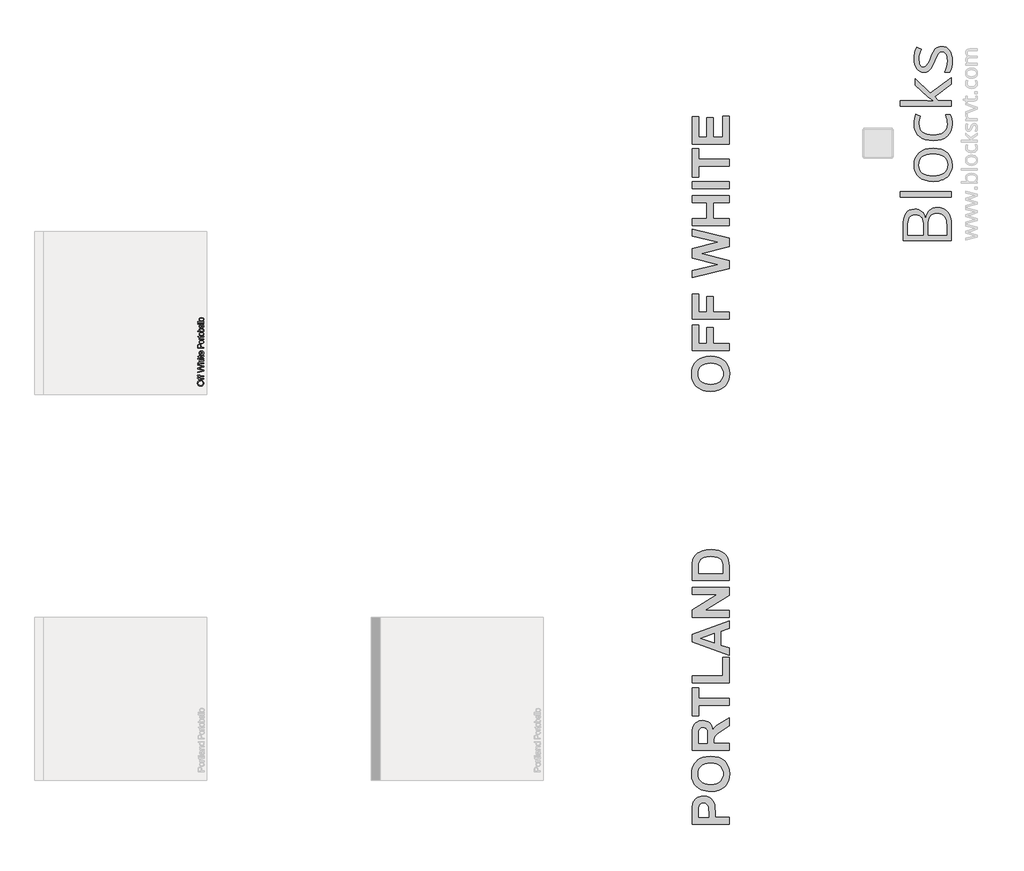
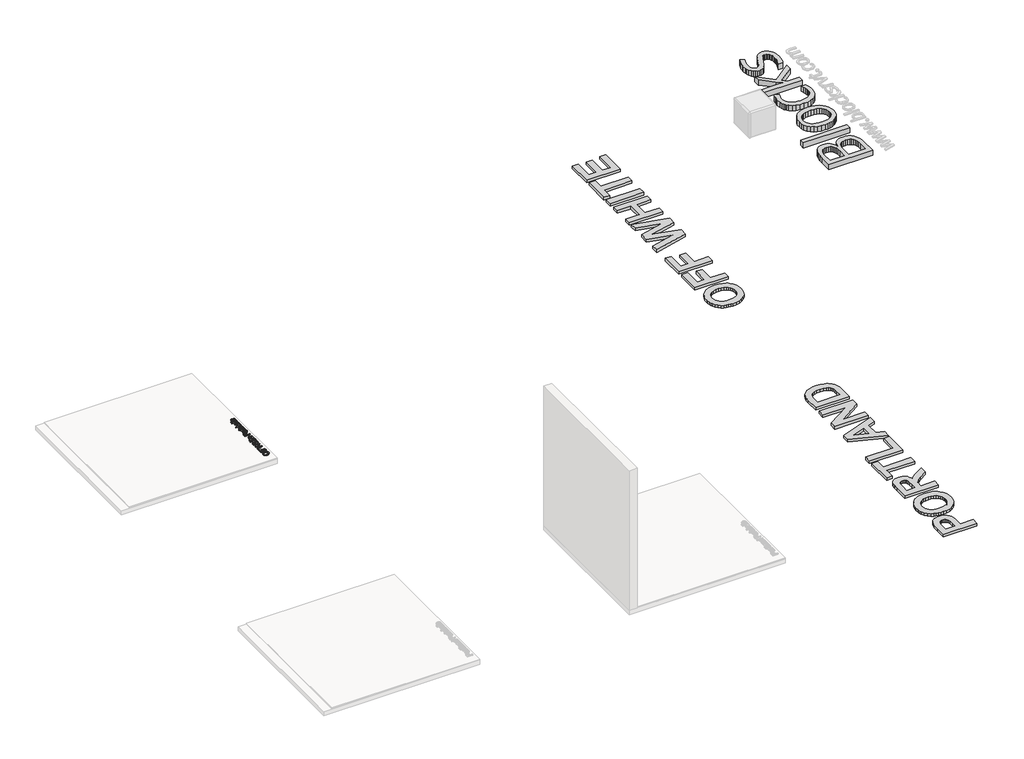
# One storey, part 13 of 14: 5 proxies.
"""IFC4 building model written with IfcOpenShell, lengths in millimetres."""

from ifc_helpers import new_model, si_unit, frame, origin, origin_with_axes, place, context, project, spatial, polyline, outline, extrude, element, save

model = new_model("IFC4")

# Units and contexts
model_context = context("Model", 3, world=origin())
ifc_project = project(units=[si_unit("LENGTHUNIT", "METRE", prefix="MILLI")], contexts=[model_context])

# Site, building, storey
site = spatial("IfcSite", under=ifc_project)
building = spatial("IfcBuilding", under=site)
storey = spatial("IfcBuildingStorey", under=building, Name="PORTOBELLO - SHOWROOM", Elevation=0.0)

# Proxies
placement = place(None, origin())
element("IfcBuildingElementProxy", 1, Name="10mm Arial", ObjectType="10mm Arial", at=placement, inside=storey, context=model_context, shape_type="SweptSolid", body=[
    extrude(outline(polyline([(192292.7960193, 16513.6004485), (192270.5820781, 16516.9481746), (192253.7760023, 16526.9913531), (192243.1993949, 16542.3259009), (192239.6738592, 16561.5477352), (192241.3293281, 16574.724042), (192246.2957351, 16586.5391854), (192254.2235921, 16596.3493719), (192264.7634112, 16603.5108081), (192277.4062891, 16607.8886038), (192291.6433223, 16609.3478691), (192306.0704279, 16607.8119617), (192318.8911155, 16603.2042398), (192329.4493287, 16595.7791548), (192337.0890115, 16585.7911586), (192341.7243246, 16574.0771828), (192343.269429, 16561.4741588), (192341.5618434, 16548.0955169), (192336.4390866, 16536.2129284), (192328.3640768, 16526.4272674), (192317.7997322, 16519.3394076), (192292.7960193, 16513.6004485)]), holes=[polyline([(192292.9186466, 16526.1574872), (192308.6333392, 16528.6682818), (192320.6078981, 16536.2006657), (192328.1862672, 16547.5222341), (192330.7123902, 16561.4005824), (192328.1617417, 16575.4812657), (192320.5097962, 16586.8212282), (192308.1673553, 16594.2984298), (192291.5452205, 16596.7908303), (192270.8212014, 16592.5233992), (192257.099203, 16580.0521995), (192252.2308979, 16561.6213116), (192254.5761456, 16548.113911), (192261.6118888, 16536.6298614), (192274.1290737, 16528.7755808), (192292.9186466, 16526.1574872)])]), frame((0.0, 0.0, 17.0), z_axis=(0.0, 0.0, 1.0), x_axis=(1.0, 0.0, 0.0)), (0.0, 0.0, 1.0), 20.0),
    extrude(outline(polyline([(192341.6997992, 16668.9938032), (192280.4842352, 16668.9938032), (192280.4842352, 16658.0063943), (192267.9271964, 16658.0063943), (192267.9271964, 16668.9938032), (192260.4959801, 16668.9938032), (192250.023606, 16670.3181784), (192242.5433387, 16676.7438506), (192239.6738592, 16689.3989912), (192241.0472853, 16700.852384), (192252.8195091, 16699.012974), (192252.2308979, 16691.7779615), (192254.3155626, 16683.8684986), (192262.0901354, 16681.550842), (192267.9271964, 16681.550842), (192267.9271964, 16695.6775106), (192280.4842352, 16695.6775106), (192280.4842352, 16681.550842), (192341.6997992, 16681.550842), (192341.6997992, 16668.9938032)])), frame((0.0, 0.0, 17.0), z_axis=(0.0, 0.0, 1.0), x_axis=(1.0, 0.0, 0.0)), (0.0, 0.0, 1.0), 20.0),
    extrude(outline(polyline([(192341.6997992, 16628.1834272), (192280.4842352, 16628.1834272), (192280.4842352, 16617.1960183), (192267.9271964, 16617.1960183), (192267.9271964, 16628.1834272), (192260.4959801, 16628.1834272), (192250.023606, 16629.5078024), (192242.5433387, 16635.9334746), (192239.6738592, 16648.5886152), (192241.0472853, 16660.042008), (192252.8195091, 16658.202598), (192252.2308979, 16650.9675855), (192254.3155626, 16643.0581226), (192262.0901354, 16640.740466), (192267.9271964, 16640.740466), (192267.9271964, 16654.8671346), (192280.4842352, 16654.8671346), (192280.4842352, 16640.740466), (192341.6997992, 16640.740466), (192341.6997992, 16628.1834272)])), frame((0.0, 0.0, 17.0), z_axis=(0.0, 0.0, 1.0), x_axis=(1.0, 0.0, 0.0)), (0.0, 0.0, 1.0), 20.0),
    extrude(outline(polyline([(192341.6997992, 16765.4524624), (192241.243489, 16738.0575165), (192241.243489, 16751.0069627), (192307.2660444, 16766.8994649), (192327.6467069, 16771.8045581), (192309.6204892, 16777.0530079), (192241.243489, 16796.9676866), (192241.243489, 16815.6315665), (192290.8094565, 16830.1015916), (192327.6467069, 16840.8682714), (192307.8546556, 16845.6262118), (192241.243489, 16861.6658668), (192241.243489, 16874.6153131), (192341.6997992, 16847.1958417), (192341.6997992, 16833.7804116), (192264.1993255, 16809.6964036), (192253.3835948, 16806.3364148), (192266.4066175, 16802.5594929), (192341.6997992, 16780.6092006), (192341.6997992, 16765.4524624)])), frame((0.0, 0.0, 17.0), z_axis=(0.0, 0.0, 1.0), x_axis=(1.0, 0.0, 0.0)), (0.0, 0.0, 1.0), 20.0),
    extrude(outline(polyline([(192341.6997992, 16885.602722), (192241.243489, 16885.602722), (192241.243489, 16898.1597608), (192278.1788413, 16898.1597608), (192269.3128852, 16907.9515532), (192266.3575665, 16920.0119513), (192269.5826654, 16934.1140944), (192278.4976724, 16942.6734822), (192295.0033112, 16945.2486561), (192341.6997992, 16945.2486561), (192341.6997992, 16932.6916174), (192296.3031609, 16932.6916174), (192283.0594091, 16928.6939664), (192278.9146053, 16917.3632009), (192281.7105085, 16907.0747678), (192289.2888776, 16900.2076372), (192302.5081039, 16898.1597608), (192341.6997992, 16898.1597608), (192341.6997992, 16885.602722)])), frame((0.0, 0.0, 17.0), z_axis=(0.0, 0.0, 1.0), x_axis=(1.0, 0.0, 0.0)), (0.0, 0.0, 1.0), 20.0),
    extrude(outline(polyline([(192253.8005278, 16962.5145844), (192241.243489, 16962.5145844), (192241.243489, 16975.0716232), (192253.8005278, 16975.0716232), (192253.8005278, 16962.5145844)])), frame((0.0, 0.0, 17.0), z_axis=(0.0, 0.0, 1.0), x_axis=(1.0, 0.0, 0.0)), (0.0, 0.0, 1.0), 20.0),
    extrude(outline(polyline([(192341.6997992, 16962.5145844), (192267.9271964, 16962.5145844), (192267.9271964, 16975.0716232), (192341.6997992, 16975.0716232), (192341.6997992, 16962.5145844)])), frame((0.0, 0.0, 17.0), z_axis=(0.0, 0.0, 1.0), x_axis=(1.0, 0.0, 0.0)), (0.0, 0.0, 1.0), 20.0),
    extrude(outline(polyline([(192331.227425, 17020.5908887), (192342.0676811, 17022.1605186), (192343.269429, 17012.767265), (192341.1847644, 17002.2458399), (192335.7155854, 16996.9973901), (192321.4662894, 16995.4768112), (192280.4842352, 16995.4768112), (192280.4842352, 16986.0590321), (192267.9271964, 16986.0590321), (192267.9271964, 16995.4768112), (192249.9990805, 16995.4768112), (192242.6169151, 17008.03385), (192267.9271964, 17008.03385), (192267.9271964, 17020.5908887), (192280.4842352, 17020.5908887), (192280.4842352, 17008.03385), (192321.0984074, 17008.03385), (192327.5731305, 17008.6960376), (192329.8662616, 17010.8420159), (192330.7123902, 17015.1217098), (192331.227425, 17020.5908887)])), frame((0.0, 0.0, 17.0), z_axis=(0.0, 0.0, 1.0), x_axis=(1.0, 0.0, 0.0)), (0.0, 0.0, 1.0), 20.0),
    extrude(outline(polyline([(192319.7249813, 17084.7985596), (192321.2946112, 17097.1103437), (192330.5713688, 17092.6743), (192337.5059444, 17085.5956373), (192341.8285579, 17076.0337711), (192343.269429, 17064.148117), (192340.7831598, 17049.4144431), (192333.3243524, 17038.0775463), (192321.3773846, 17030.848665), (192305.4266344, 17028.439038), (192288.9393897, 17030.8731905), (192276.6092115, 17038.1756481), (192268.9204778, 17049.3592608), (192266.3575665, 17063.4368785), (192268.9143464, 17077.0761034), (192276.584686, 17087.9746075), (192288.8903387, 17095.1207153), (192305.353058, 17097.5027512), (192308.7375724, 17097.4291748), (192308.7375724, 17040.9960767), (192318.1369574, 17043.1696462), (192325.0470075, 17048.2188266), (192329.2960445, 17055.5059558), (192330.7123902, 17064.3933716), (192328.0881653, 17076.7051557), (192319.7249813, 17084.7985596)]), holes=[polyline([(192296.1805336, 17040.9960767), (192296.1805336, 17084.9457124), (192284.8007172, 17079.9179918), (192280.3861333, 17072.5971401), (192278.9146053, 17063.3878275), (192283.6112321, 17047.924521), (192289.1018709, 17043.0592816), (192296.1805336, 17040.9960767)])]), frame((0.0, 0.0, 17.0), z_axis=(0.0, 0.0, 1.0), x_axis=(1.0, 0.0, 0.0)), (0.0, 0.0, 1.0), 20.0),
])
element("IfcBuildingElementProxy", 2, Name="10mm Arial Narrow", ObjectType="10mm Arial Narrow", at=placement, inside=storey, context=model_context, shape_type="SweptSolid", body=[
    extrude(outline(polyline([(192341.6997992, 17145.6232376), (192240.9811954, 17145.6232376), (192240.9811954, 17176.9201223), (192242.8595161, 17193.2158238), (192252.3399593, 17204.6888099), (192269.3590681, 17208.9784884), (192281.4348937, 17207.19218), (192291.0612874, 17201.8332548), (192297.3625459, 17192.089466), (192299.4629653, 17177.1485667), (192299.4629653, 17155.3701993), (192341.6997992, 17155.3701993), (192341.6997992, 17145.6232376)]), holes=[polyline([(192288.0915101, 17155.3701993), (192288.0915101, 17178.3415542), (192283.5606959, 17194.2057496), (192269.8921051, 17199.2315267), (192259.7263287, 17196.7567122), (192253.9263788, 17190.7790834), (192252.3526507, 17178.1131098), (192252.3526507, 17155.3701993), (192288.0915101, 17155.3701993)])]), frame((0.0, 0.0, 17.0), z_axis=(0.0, 0.0, 1.0), x_axis=(1.0, 0.0, 0.0)), (0.0, 0.0, 1.0), 20.0),
    extrude(outline(polyline([(192305.148693, 17217.1009564), (192288.5579174, 17219.0554253), (192276.6058326, 17224.9188319), (192269.381278, 17233.7773986), (192266.9730931, 17244.7173478), (192269.381278, 17255.5303834), (192276.6058326, 17264.4143328), (192288.3675471, 17270.3538875), (192304.3872116, 17272.3337391), (192321.5490982, 17270.3887888), (192333.6915533, 17264.5539377), (192340.9161079, 17255.7048895), (192343.3242928, 17244.7173478), (192340.9097622, 17233.8567196), (192333.6661706, 17224.9822887), (192321.7077401, 17219.0712895), (192305.148693, 17217.1009564)]), holes=[polyline([(192305.1233102, 17226.8479181), (192317.6750616, 17228.1519549), (192326.5463197, 17232.0640655), (192331.8195783, 17237.9052623), (192333.5773311, 17244.9965576), (192331.8037141, 17251.7166308), (192326.4828629, 17257.4087041), (192317.5957407, 17261.2922591), (192305.1233102, 17262.5867775), (192292.6096329, 17261.2827406), (192283.7510662, 17257.37063), (192278.4778076, 17251.5294333), (192276.7200548, 17244.4381379), (192278.4873262, 17237.6704722), (192283.7891403, 17231.9879174), (192292.6572255, 17228.1329179), (192305.1233102, 17226.8479181)])]), frame((0.0, 0.0, 17.0), z_axis=(0.0, 0.0, 1.0), x_axis=(1.0, 0.0, 0.0)), (0.0, 0.0, 1.0), 20.0),
    extrude(outline(polyline([(192333.5773311, 17343.8114579), (192343.3242928, 17345.4359515), (192343.3242928, 17338.0749649), (192341.2048363, 17329.8002005), (192335.4048864, 17325.4851394), (192320.7590612, 17324.3175346), (192278.3445484, 17324.3175346), (192278.3445484, 17316.1950666), (192275.0955612, 17316.1950666), (192279.969042, 17314.570573), (192278.3445484, 17307.0065246), (192280.6670666, 17300.9273649), (192287.1523497, 17297.0565012), (192302.5596563, 17295.0766496), (192341.6997992, 17295.0766496), (192341.6997992, 17285.329688), (192268.5975868, 17285.329688), (192268.5975868, 17295.0766496), (192278.293783, 17295.0766496), (192269.2067719, 17301.320797), (192266.9730931, 17307.7172405), (192268.5975868, 17316.1950666), (192268.5975868, 17324.3175346), (192252.3526507, 17324.3175346), (192244.2301826, 17334.0644963), (192268.5975868, 17334.0644963), (192268.5975868, 17343.8114579), (192278.3445484, 17343.8114579), (192278.3445484, 17334.0644963), (192322.9927399, 17334.0644963), (192330.9882944, 17334.9275085), (192333.5773311, 17339.5471622), (192333.5773311, 17343.8114579)])), frame((0.0, 0.0, 17.0), z_axis=(0.0, 0.0, 1.0), x_axis=(1.0, 0.0, 0.0)), (0.0, 0.0, 1.0), 20.0),
    extrude(outline(polyline([(192305.148693, 17350.3094324), (192288.5579174, 17352.2639012), (192276.6058326, 17358.1273078), (192269.381278, 17366.9858746), (192266.9730931, 17377.9258237), (192269.381278, 17388.7388593), (192276.6058326, 17397.6228087), (192288.3675471, 17403.5623635), (192304.3872116, 17405.5422151), (192321.5490982, 17403.5972647), (192333.6915533, 17397.7624136), (192340.9161079, 17388.9133654), (192343.3242928, 17377.9258237), (192340.9097622, 17367.0651955), (192333.6661706, 17358.1907646), (192321.7077401, 17352.2797654), (192305.148693, 17350.3094324)]), holes=[polyline([(192305.1233102, 17360.056394), (192317.6750616, 17361.3604309), (192326.5463197, 17365.2725415), (192331.8195783, 17371.1137382), (192333.5773311, 17378.2050335), (192331.8037141, 17384.9251067), (192326.4828629, 17390.61718), (192317.5957407, 17394.5007351), (192305.1233102, 17395.7952534), (192292.6096329, 17394.4912165), (192283.7510662, 17390.579106), (192278.4778076, 17384.7379092), (192276.7200548, 17377.6466139), (192278.4873262, 17370.8789481), (192283.7891403, 17365.1963933), (192292.6572255, 17361.3413938), (192305.1233102, 17360.056394)])]), frame((0.0, 0.0, 17.0), z_axis=(0.0, 0.0, 1.0), x_axis=(1.0, 0.0, 0.0)), (0.0, 0.0, 1.0), 20.0),
    extrude(outline(polyline([(192341.6997992, 17428.2851256), (192341.6997992, 17418.5381639), (192240.9811954, 17418.5381639), (192240.9811954, 17428.2851256), (192276.3900795, 17428.2851256), (192269.3083027, 17435.6841863), (192266.9730931, 17444.8854196), (192271.1739321, 17457.7671463), (192283.9033625, 17467.0445278), (192304.5902733, 17470.5219594), (192321.0446167, 17468.5897004), (192333.2473558, 17462.7929234), (192340.8050585, 17454.4198011), (192343.3242928, 17444.7585061), (192340.7098734, 17435.4176678), (192332.9427633, 17428.2851256), (192341.6997992, 17428.2851256)]), holes=[polyline([(192304.5902733, 17428.2851256), (192321.8378265, 17430.366508), (192330.5694797, 17436.2552973), (192333.5773311, 17444.7077407), (192331.7878499, 17450.6504683), (192326.4194061, 17455.8888256), (192304.9963967, 17460.7749978), (192283.5606959, 17456.0665046), (192278.4302151, 17450.8218016), (192276.7200548, 17444.504679), (192278.509536, 17438.5270501), (192283.8779798, 17433.2347545), (192304.5902733, 17428.2851256)])]), frame((0.0, 0.0, 17.0), z_axis=(0.0, 0.0, 1.0), x_axis=(1.0, 0.0, 0.0)), (0.0, 0.0, 1.0), 20.0),
    extrude(outline(polyline([(192318.9568886, 17522.5057549), (192320.5813822, 17532.2527166), (192330.4679488, 17528.5531862), (192337.5877997, 17522.7341993), (192341.8901695, 17515.030546), (192343.3242928, 17505.6770164), (192340.9097622, 17494.0834624), (192333.6661706, 17484.9393402), (192321.8600364, 17478.9997854), (192305.7578781, 17477.0199338), (192289.0909544, 17479.009304), (192276.9104251, 17484.9774143), (192269.4574261, 17493.9914501), (192266.9730931, 17505.1185967), (192269.3717595, 17515.8015459), (192276.5677585, 17524.5490633), (192288.3072631, 17530.3839143), (192304.3364461, 17532.3288647), (192307.5854334, 17532.2527166), (192307.5854334, 17486.7668955), (192327.0285912, 17492.769907), (192331.9401461, 17498.6999433), (192333.5773311, 17505.80393), (192329.9222205, 17515.9823977), (192318.9568886, 17522.5057549)]), holes=[polyline([(192297.8384717, 17487.426846), (192297.8384717, 17522.5057549), (192283.5733872, 17518.2414592), (192278.4333879, 17512.4161266), (192276.7200548, 17505.1947449), (192282.4311651, 17492.9856601), (192297.8384717, 17487.426846)])]), frame((0.0, 0.0, 17.0), z_axis=(0.0, 0.0, 1.0), x_axis=(1.0, 0.0, 0.0)), (0.0, 0.0, 1.0), 20.0),
    extrude(outline(polyline([(192341.6997992, 17545.2486654), (192240.9811954, 17545.2486654), (192240.9811954, 17554.9956271), (192341.6997992, 17554.9956271), (192341.6997992, 17545.2486654)])), frame((0.0, 0.0, 17.0), z_axis=(0.0, 0.0, 1.0), x_axis=(1.0, 0.0, 0.0)), (0.0, 0.0, 1.0), 20.0),
    extrude(outline(polyline([(192341.6997992, 17571.2405632), (192240.9811954, 17571.2405632), (192240.9811954, 17580.9875248), (192341.6997992, 17580.9875248), (192341.6997992, 17571.2405632)])), frame((0.0, 0.0, 17.0), z_axis=(0.0, 0.0, 1.0), x_axis=(1.0, 0.0, 0.0)), (0.0, 0.0, 1.0), 20.0),
    extrude(outline(polyline([(192305.148693, 17592.3589801), (192288.5579174, 17594.313449), (192276.6058326, 17600.1768556), (192269.381278, 17609.0354223), (192266.9730931, 17619.9753714), (192269.381278, 17630.788407), (192276.6058326, 17639.6723564), (192288.3675471, 17645.6119112), (192304.3872116, 17647.5917628), (192321.5490982, 17645.6468124), (192333.6915533, 17639.8119614), (192340.9161079, 17630.9629132), (192343.3242928, 17619.9753714), (192340.9097622, 17609.1147433), (192333.6661706, 17600.2403124), (192321.7077401, 17594.3293131), (192305.148693, 17592.3589801)]), holes=[polyline([(192305.1233102, 17602.1059417), (192317.6750616, 17603.4099786), (192326.5463197, 17607.3220892), (192331.8195783, 17613.1632859), (192333.5773311, 17620.2545813), (192331.8037141, 17626.9746544), (192326.4828629, 17632.6667278), (192317.5957407, 17636.5502828), (192305.1233102, 17637.8448011), (192292.6096329, 17636.5407643), (192283.7510662, 17632.6286537), (192278.4778076, 17626.7874569), (192276.7200548, 17619.6961616), (192278.4873262, 17612.9284958), (192283.7891403, 17607.245941), (192292.6572255, 17603.3909416), (192305.1233102, 17602.1059417)])]), frame((0.0, 0.0, 17.0), z_axis=(0.0, 0.0, 1.0), x_axis=(1.0, 0.0, 0.0)), (0.0, 0.0, 1.0), 20.0),
])
element("IfcBuildingElementProxy", 3, Name="600mm Arial", ObjectType="600mm Arial", at=placement, inside=storey, context=model_context, shape_type="SweptSolid", body=[
    extrude(outline(polyline([(201053.0510474, 9246.6476682), (200440.8954075, 9246.6476682), (200440.8954075, 9443.867454), (200443.1727722, 9536.5182425), (200450.0048664, 9590.0742698), (200458.8533773, 9615.1964495), (200471.7347215, 9638.1835997), (200488.6488992, 9659.0357206), (200509.5959102, 9677.752812), (200534.2246609, 9693.1961915), (200562.1840575, 9704.227177), (200593.4741, 9710.8457682), (200628.0947884, 9713.0519653), (200679.6581216, 9707.8709605), (200702.0949087, 9701.3947046), (200722.3017762, 9692.3279462), (200756.386335, 9668.7951773), (200782.2723808, 9639.6449088), (200800.3964085, 9607.4391759), (200811.1949129, 9574.7400139), (200817.6854024, 9519.89348), (200819.8488989, 9444.9302242), (200819.8488989, 9363.2487425), (201053.0510474, 9363.2487425), (201053.0510474, 9246.6476682)]), holes=[polyline([(200547.7797256, 9363.2487425), (200712.9645808, 9363.2487425), (200712.9645808, 9435.6689409), (200710.6872161, 9500.8964625), (200703.8551219, 9540.1999821), (200692.1456715, 9563.694795), (200675.2362384, 9581.496196), (200654.1516366, 9592.7122173), (200629.9166802, 9596.450891), (200600.9561921, 9591.1939741), (200577.5372914, 9575.4232233), (200560.7607045, 9551.6437399), (200551.7271578, 9522.3606251), (200547.7797256, 9427.1667793), (200547.7797256, 9363.2487425)])]), origin_with_axes(), (0.0, 0.0, 1.0), 50.0),
    extrude(outline(polyline([(200750.7688353, 9790.7860148), (200705.9616842, 9792.5035274), (200664.9121849, 9797.6560651), (200627.6203375, 9806.2436279), (200594.0861418, 9818.2662159), (200549.8483319, 9842.5011723), (200510.3550318, 9874.2134762), (200478.0354306, 9911.3534994), (200455.3187174, 9951.8716135), (200444.7574385, 9981.0408602), (200437.2136678, 10012.3736033), (200432.6874054, 10045.8698429), (200431.1786513, 10081.529579), (200436.4118457, 10144.6315601), (200452.1114288, 10201.0912274), (200478.2774006, 10250.9085809), (200514.9097613, 10294.0836206), (200536.8637945, 10312.7651282), (200560.8603392, 10328.9557681), (200614.9809632, 10353.8644448), (200677.2716331, 10368.8096509), (200747.732349, 10373.7913862), (200817.7138694, 10368.847607), (200879.6297231, 10354.0162691), (200933.47991, 10329.2973728), (200957.3803784, 10313.2300901), (200979.2644301, 10294.6909179), (201015.797156, 10251.8005488), (201041.8919603, 10202.2299098), (201057.5488428, 10145.9790009), (201062.7678036, 10083.0478221), (201057.5725653, 10019.452412), (201041.9868505, 9962.7270521), (201016.010659, 9912.8717425), (200979.6439909, 9869.8864832), (200934.1678639, 9835.2800283), (200880.8632957, 9810.5611319), (200819.7302861, 9795.7297941), (200750.7688353, 9790.7860148)]), holes=[polyline([(200746.5177545, 9907.3870891), (200794.9402221, 9910.485254), (200837.1189148, 9919.7797489), (200873.0538324, 9935.2705735), (200902.7449751, 9956.9577281), (200925.9930734, 9983.4178596), (200942.5988579, 10013.227615), (200952.5623286, 10046.3869944), (200955.8834855, 10082.8959978), (200952.5860512, 10119.3670451), (200942.6937481, 10152.4125562), (200926.2065764, 10182.0325313), (200903.1245359, 10208.2269702), (200873.4476267, 10229.6484322), (200837.1758489, 10244.9494765), (200794.3092023, 10254.1301031), (200744.847687, 10257.190312), (200696.0741257, 10254.2107598), (200653.9049221, 10245.2721032), (200618.3400762, 10230.3743422), (200589.379588, 10209.5174769), (200566.9285673, 10183.7263213), (200550.892124, 10154.0256896), (200541.270258, 10120.4155818), (200538.0629694, 10082.8959978), (200541.3082141, 10045.3384578), (200551.0439483, 10011.6144817), (200567.2701721, 9981.7240696), (200589.9868853, 9955.6672214), (200619.241533, 9934.5446635), (200655.0815605, 9919.4571222), (200697.5069677, 9910.4045974), (200746.5177545, 9907.3870891)])]), origin_with_axes(), (0.0, 0.0, 1.0), 50.0),
    extrude(outline(polyline([(201053.0510474, 10470.9589481), (200440.8954075, 10470.9589481), (200440.8954075, 10728.4529872), (200445.0326201, 10812.3359215), (200450.2041358, 10844.3139179), (200457.4442579, 10869.6496006), (200467.3318164, 10890.5634), (200480.4456416, 10909.2757469), (200496.7857336, 10925.7866412), (200516.3520923, 10940.0960829), (200538.3001949, 10951.6537089), (200561.7855187, 10959.9091561), (200586.8080637, 10964.8624244), (200613.3678298, 10966.5135138), (200646.4750196, 10964.1270254), (200676.5647012, 10956.96756), (200703.6368744, 10945.0351177), (200727.6915394, 10928.3296985), (200748.1498659, 10906.8702804), (200764.4330237, 10880.6758415), (200776.5410129, 10849.7463817), (200784.4738334, 10814.0819011), (200808.841636, 10847.9007674), (200835.4868034, 10875.2671002), (200874.0881356, 10903.5823351), (200934.3244327, 10940.2479072), (201053.0510474, 11015.0972948), (201053.0510474, 10878.9108838), (200913.2208529, 10790.2454836), (200859.5319793, 10747.4120486), (200830.2488645, 10720.6340349), (200815.8445326, 10701.3143908), (200806.7920077, 10680.8560643), (200802.0095418, 10653.6984898), (200800.4153865, 10614.2811019), (200800.4153865, 10587.5600224), (201053.0510474, 10587.5600224), (201053.0510474, 10470.9589481)]), holes=[polyline([(200693.5310684, 10587.5600224), (200693.5310684, 10683.6648141), (200691.7661107, 10759.5200377), (200686.4712377, 10800.3418005), (200676.8683498, 10821.1037757), (200662.1793473, 10836.7796363), (200642.802769, 10846.6292387), (200619.1371538, 10849.9124395), (200592.9284814, 10845.5854466), (200572.2993525, 10832.6044676), (200557.7431963, 10811.7286242), (200549.7534417, 10783.717038), (200547.7797256, 10688.9786651), (200547.7797256, 10587.5600224), (200693.5310684, 10587.5600224)])]), origin_with_axes(), (0.0, 0.0, 1.0), 50.0),
    extrude(outline(polyline([(201053.0510474, 11219.1491748), (200547.7797256, 11219.1491748), (200547.7797256, 11044.2475633), (200440.8954075, 11044.2475633), (200440.8954075, 11510.6518605), (200547.7797256, 11510.6518605), (200547.7797256, 11335.750249), (201053.0510474, 11335.750249), (201053.0510474, 11219.1491748)])), origin_with_axes(), (0.0, 0.0, 1.0), 50.0),
    extrude(outline(polyline([(201053.0510474, 11588.38591), (200440.8954075, 11588.38591), (200440.8954075, 11704.9869843), (200946.1667293, 11704.9869843), (200946.1667293, 12015.9231824), (201053.0510474, 12015.9231824), (201053.0510474, 11588.38591)])), origin_with_axes(), (0.0, 0.0, 1.0), 50.0),
    extrude(outline(polyline([(201053.0510474, 12618.3620661), (201053.0510474, 12495.8398436), (200917.0164608, 12447.8633599), (200917.0164608, 12216.6349274), (201053.0510474, 12169.265741), (201053.0510474, 12045.0734509), (200440.8954075, 12268.5588433), (200440.8954075, 12392.7511333), (201053.0510474, 12618.3620661)]), holes=[polyline([(200810.1321427, 12410.5145783), (200586.6467503, 12331.7177585), (200810.1321427, 12253.983709), (200810.1321427, 12410.5145783)])]), origin_with_axes(), (0.0, 0.0, 1.0), 50.0),
    extrude(outline(polyline([(201053.0510474, 12676.6626033), (200440.8954075, 12676.6626033), (200440.8954075, 12798.8811772), (200852.9465997, 13055.6160947), (200440.8954075, 13055.6160947), (200440.8954075, 13172.217169), (201053.0510474, 13172.217169), (201053.0510474, 13046.2029871), (200647.0728279, 12793.2636776), (201053.0510474, 12793.2636776), (201053.0510474, 12676.6626033)])), origin_with_axes(), (0.0, 0.0, 1.0), 50.0),
    extrude(outline(polyline([(200440.8954075, 13288.8182433), (200440.8954075, 13515.4919462), (200443.8180255, 13583.0537666), (200452.5858798, 13632.3966692), (200462.089133, 13658.4535173), (200474.6573396, 13682.5746054), (200490.2904996, 13704.7599335), (200508.988613, 13725.0095016), (200530.3578854, 13743.1382738), (200554.0045225, 13758.9612141), (200608.129891, 13783.6895995), (200639.182708, 13792.4906653), (200673.6610611, 13798.7771409), (200752.8943758, 13803.8063213), (200823.1890338, 13799.0997675), (200883.1596384, 13784.9801062), (200914.9668325, 13772.2078857), (200943.585716, 13756.96852), (200969.0162888, 13739.2620092), (200991.258551, 13719.0883533), (201019.1183129, 13681.2081866), (201040.1459806, 13631.9411962), (201049.8247807, 13584.0026686), (201053.0510474, 13522.1722161), (201053.0510474, 13288.8182433), (200440.8954075, 13288.8182433)]), holes=[polyline([(200547.7797256, 13405.4193175), (200946.1667293, 13405.4193175), (200946.1667293, 13504.7124198), (200944.7243984, 13552.6889035), (200940.3974054, 13585.179307), (200930.5098468, 13614.7660705), (200915.4223055, 13638.8492026), (200892.0603389, 13658.2257808), (200857.3495048, 13673.692883), (200809.6007576, 13683.827156), (200747.1250518, 13687.205247), (200685.5223358, 13683.827156), (200640.0889094, 13673.692883), (200606.8393843, 13657.5046153), (200581.7883722, 13635.9645406), (200564.2526638, 13608.4653614), (200553.5490495, 13574.3997807), (200549.2220566, 13533.1415229), (200547.7797256, 13465.2380978), (200547.7797256, 13405.4193175)])]), origin_with_axes(), (0.0, 0.0, 1.0), 50.0),
])
element("IfcBuildingElementProxy", 4, Name="600mm Arial", ObjectType="600mm Arial", at=placement, inside=storey, context=model_context, shape_type="SweptSolid", body=[
    extrude(outline(polyline([(200750.7688353, 16427.2141558), (200705.9616842, 16428.9316684), (200664.9121849, 16434.0842061), (200627.6203375, 16442.6717689), (200594.0861418, 16454.6943569), (200549.8483319, 16478.9293133), (200510.3550318, 16510.6416172), (200478.0354306, 16547.7816403), (200455.3187174, 16588.2997545), (200444.7574385, 16617.4690011), (200437.2136678, 16648.8017442), (200432.6874054, 16682.2979838), (200431.1786513, 16717.9577199), (200436.4118457, 16781.059701), (200452.1114288, 16837.5193684), (200478.2774006, 16887.3367219), (200514.9097613, 16930.5117616), (200536.8637945, 16949.1932692), (200560.8603392, 16965.383909), (200614.9809632, 16990.2925858), (200677.2716331, 17005.2377919), (200747.732349, 17010.2195272), (200817.7138694, 17005.2757479), (200879.6297231, 16990.4444101), (200933.47991, 16965.7255138), (200957.3803784, 16949.6582311), (200979.2644301, 16931.1190588), (201015.797156, 16888.2286897), (201041.8919603, 16838.6580507), (201057.5488428, 16782.4071418), (201062.7678036, 16719.4759631), (201057.5725653, 16655.8805529), (201041.9868505, 16599.1551931), (201016.010659, 16549.2998835), (200979.6439909, 16506.3146242), (200934.1678639, 16471.7081693), (200880.8632957, 16446.9892729), (200819.7302861, 16432.1579351), (200750.7688353, 16427.2141558)]), holes=[polyline([(200746.5177545, 16543.8152301), (200794.9402221, 16546.913395), (200837.1189148, 16556.2078898), (200873.0538324, 16571.6987145), (200902.7449751, 16593.3858691), (200925.9930734, 16619.8460006), (200942.5988579, 16649.655756), (200952.5623286, 16682.8151354), (200955.8834855, 16719.3241388), (200952.5860512, 16755.795186), (200942.6937481, 16788.8406972), (200926.2065764, 16818.4606723), (200903.1245359, 16844.6551112), (200873.4476267, 16866.0765732), (200837.1758489, 16881.3776175), (200794.3092023, 16890.5582441), (200744.847687, 16893.6184529), (200696.0741257, 16890.6389007), (200653.9049221, 16881.7002442), (200618.3400762, 16866.8024832), (200589.379588, 16845.9456179), (200566.9285673, 16820.1544623), (200550.892124, 16790.4538306), (200541.270258, 16756.8437227), (200538.0629694, 16719.3241388), (200541.3082141, 16681.7665987), (200551.0439483, 16648.0426227), (200567.2701721, 16618.1522105), (200589.9868853, 16592.0953624), (200619.241533, 16570.9728045), (200655.0815605, 16555.8852632), (200697.5069677, 16546.8327384), (200746.5177545, 16543.8152301)])]), origin_with_axes(), (0.0, 0.0, 1.0), 50.0),
    extrude(outline(polyline([(201053.0510474, 17107.3870891), (200440.8954075, 17107.3870891), (200440.8954075, 17525.2076053), (200547.7797256, 17525.2076053), (200547.7797256, 17223.9881634), (200683.8143122, 17223.9881634), (200683.8143122, 17486.3405805), (200790.6986303, 17486.3405805), (200790.6986303, 17223.9881634), (201053.0510474, 17223.9881634), (201053.0510474, 17107.3870891)])), origin_with_axes(), (0.0, 0.0, 1.0), 50.0),
    extrude(outline(polyline([(201053.0510474, 17622.3751672), (200440.8954075, 17622.3751672), (200440.8954075, 18040.1956834), (200547.7797256, 18040.1956834), (200547.7797256, 17738.9762415), (200683.8143122, 17738.9762415), (200683.8143122, 18001.3286586), (200790.6986303, 18001.3286586), (200790.6986303, 17738.9762415), (201053.0510474, 17738.9762415), (201053.0510474, 17622.3751672)])), origin_with_axes(), (0.0, 0.0, 1.0), 50.0),
    extrude(outline(polyline([(201053.0510474, 18466.3665369), (200440.8954075, 18312.2648567), (200440.8954075, 18431.9024173), (200861.4487613, 18530.891871), (200440.8954075, 18637.3207161), (200440.8954075, 18794.155234), (200868.4326798, 18900.1286062), (200440.8954075, 18999.1180599), (200440.8954075, 19118.7556205), (201053.0510474, 18966.931305), (201053.0510474, 18828.9230022), (200595.4525606, 18715.5102386), (201053.0510474, 18599.8201102), (201053.0510474, 18466.3665369)])), origin_with_axes(), (0.0, 0.0, 1.0), 50.0),
    extrude(outline(polyline([(201053.0510474, 19177.0561576), (200440.8954075, 19177.0561576), (200440.8954075, 19293.6572319), (200683.8143122, 19293.6572319), (200683.8143122, 19556.009649), (200440.8954075, 19556.009649), (200440.8954075, 19672.6107233), (201053.0510474, 19672.6107233), (201053.0510474, 19556.009649), (200790.6986303, 19556.009649), (200790.6986303, 19293.6572319), (201053.0510474, 19293.6572319), (201053.0510474, 19177.0561576)])), origin_with_axes(), (0.0, 0.0, 1.0), 50.0),
    extrude(outline(polyline([(201053.0510474, 19789.2117976), (200440.8954075, 19789.2117976), (200440.8954075, 19905.8128718), (201053.0510474, 19905.8128718), (201053.0510474, 19789.2117976)])), origin_with_axes(), (0.0, 0.0, 1.0), 50.0),
    extrude(outline(polyline([(201053.0510474, 20158.4485328), (200547.7797256, 20158.4485328), (200547.7797256, 19983.5469214), (200440.8954075, 19983.5469214), (200440.8954075, 20449.9512185), (200547.7797256, 20449.9512185), (200547.7797256, 20275.0496071), (201053.0510474, 20275.0496071), (201053.0510474, 20158.4485328)])), origin_with_axes(), (0.0, 0.0, 1.0), 50.0),
    extrude(outline(polyline([(201053.0510474, 20527.685268), (200440.8954075, 20527.685268), (200440.8954075, 20984.3728089), (200547.7797256, 20984.3728089), (200547.7797256, 20644.2863423), (200683.8143122, 20644.2863423), (200683.8143122, 20964.9392966), (200790.6986303, 20964.9392966), (200790.6986303, 20644.2863423), (200946.1667293, 20644.2863423), (200946.1667293, 20994.0895651), (201053.0510474, 20994.0895651), (201053.0510474, 20527.685268)])), origin_with_axes(), (0.0, 0.0, 1.0), 50.0),
])
element("IfcBuildingElementProxy", 5, Name="80mm OpenSans", ObjectType="80mm OpenSans", at=placement, inside=storey, context=model_context, shape_type="SweptSolid", body=[
    extrude(outline(polyline([(203935.4679233, 18923.990402), (203935.4679233, 19148.9735226), (203938.4049025, 19222.8036205), (203947.21584, 19285.6519702), (203961.9007358, 19337.5185717), (203982.45959, 19378.403425), (204009.3581128, 19409.3731568), (204043.0620145, 19431.4943938), (204083.571295, 19444.7671359), (204130.8859543, 19449.1913833), (204164.5447872, 19446.7201144), (204195.0938775, 19439.3063077), (204222.5332251, 19426.9499631), (204246.8628301, 19409.6510806), (204267.6470279, 19387.6199811), (204284.4501543, 19361.0669853), (204297.2722091, 19329.9920931), (204306.1131925, 19294.3953046), (204311.4012573, 19294.3953046), (204321.3163788, 19336.9289224), (204335.3177322, 19373.7913912), (204353.4053175, 19404.9827109), (204375.5791346, 19430.5028816), (204401.8391837, 19450.3519032), (204432.1854647, 19464.5297758), (204466.6179775, 19473.0364994), (204505.1367222, 19475.8720739), (204556.3723614, 19471.3576891), (204601.6739507, 19457.8145345), (204641.0414899, 19435.2426101), (204674.4749791, 19403.6419161), (204701.1331354, 19363.9438728), (204720.1746755, 19317.0799008), (204731.5995996, 19263.0500001), (204735.4079076, 19201.8541706), (204735.4079076, 18923.990402), (203935.4679233, 18923.990402)]), holes=[polyline([(204273.9040705, 19017.0122692), (204273.9040705, 19168.9239489), (204271.9736264, 19214.4058131), (204266.1822941, 19253.0222068), (204256.5300735, 19284.7731299), (204243.0169648, 19309.6585826), (204224.9368909, 19328.4297103), (204201.5837752, 19341.8376587), (204172.9576176, 19349.8824278), (204139.0584181, 19352.5640175), (204107.8558312, 19349.5744581), (204081.3103468, 19340.60578), (204059.421965, 19325.6579832), (204042.1906856, 19304.7310677), (204029.1507986, 19277.2992315), (204019.8365935, 19242.8366728), (204014.2480705, 19201.3433917), (204012.3852295, 19152.8193879), (204012.3852295, 19017.0122692), (204273.9040705, 19017.0122692)]), polyline([(204350.8213767, 19017.0122692), (204658.4906014, 19017.0122692), (204658.4906014, 19182.6248441), (204656.0794242, 19227.7311355), (204648.8458923, 19266.9033769), (204636.790006, 19300.1415682), (204619.9117651, 19327.4457096), (204597.9107114, 19348.7406865), (204570.4863867, 19363.9513843), (204537.638791, 19373.0778029), (204499.3679243, 19376.1199425), (204463.6734869, 19373.0101998), (204433.0267477, 19363.6809719), (204407.4277067, 19348.1322586), (204386.876364, 19326.36406), (204371.102307, 19298.2561929), (204359.8351235, 19263.6884738), (204353.0748134, 19222.6609029), (204350.8213767, 19175.1734801), (204350.8213767, 19017.0122692)])]), origin_with_axes(), (0.0, 0.0, 1.0), 100.0),
    extrude(outline(polyline([(204735.4079076, 19737.6312815), (204735.4079076, 19646.7727136), (203889.3175396, 19646.7727136), (203889.3175396, 19737.6312815), (204735.4079076, 19737.6312815)])), origin_with_axes(), (0.0, 0.0, 1.0), 100.0),
    extrude(outline(polyline([(204434.9496803, 20458.9713936), (204505.264417, 20454.3518484), (204567.4217128, 20440.4932126), (204621.4215677, 20417.3954864), (204667.2639817, 20385.0586697), (204703.8072136, 20344.5944579), (204729.9095221, 20297.1145466), (204745.5709072, 20242.6189356), (204750.7913689, 20181.107625), (204748.3952145, 20141.9804524), (204741.2067514, 20105.1217393), (204729.2259796, 20070.5314859), (204712.4528991, 20038.2096921), (204691.2029909, 20008.8023431), (204665.7917364, 19982.9554241), (204636.2191353, 19960.6689351), (204602.4851879, 19941.9428761), (204565.1532531, 19927.1152626), (204524.7866903, 19916.5241101), (204481.3854994, 19910.1694186), (204434.9496803, 19908.0511881), (204364.6649895, 19912.633176), (204302.5978312, 19926.3791399), (204248.7482054, 19949.2890798), (204203.1161122, 19981.3629955), (204166.783201, 20021.5793292), (204140.8311217, 20068.916523), (204125.259874, 20123.3745766), (204120.0694581, 20184.9534903), (204125.3800573, 20244.586937), (204141.3118548, 20297.7755547), (204167.8648507, 20344.5193434), (204205.0390448, 20384.8183031), (204251.2720545, 20417.2602802), (204305.001497, 20440.433121), (204366.2273723, 20454.3368255), (204434.9496803, 20458.9713936)]), holes=[polyline([(204434.2285806, 20002.5152547), (204489.2725278, 20005.3846308), (204537.3458442, 20013.992759), (204578.4485297, 20028.3396394), (204612.5805843, 20048.4252718), (204639.3964811, 20074.0693815), (204658.5506931, 20105.0916935), (204670.0432203, 20141.4922078), (204673.8740627, 20183.2709243), (204670.0582432, 20225.0646637), (204658.6107847, 20261.5102466), (204639.5316873, 20292.6076732), (204612.8209509, 20318.3569432), (204578.7640108, 20338.5477361), (204537.6463024, 20352.969731), (204489.4678257, 20361.622928), (204434.2285806, 20364.507327), (204379.5526947, 20361.622928), (204331.8624626, 20352.969731), (204291.1578842, 20338.5477361), (204257.4389597, 20318.3569432), (204230.9911242, 20292.5325586), (204212.0998132, 20261.2097884), (204200.7650265, 20224.3886327), (204196.9867643, 20182.0690913), (204200.7124464, 20140.3279321), (204211.8894924, 20104.0400897), (204230.5179025, 20073.2055641), (204256.5976766, 20047.8243554), (204290.0537002, 20028.0016238), (204330.8108588, 20013.8425299), (204378.8691522, 20005.3470735), (204434.2285806, 20002.5152547)])]), origin_with_axes(), (0.0, 0.0, 1.0), 100.0),
    extrude(outline(polyline([(204750.7913689, 20861.104685), (204745.7061134, 20799.075084), (204730.4503469, 20744.4668012), (204705.0240694, 20697.2798366), (204669.4272809, 20657.5141902), (204624.5313103, 20625.9660763), (204571.2074864, 20603.4317093), (204509.4558093, 20589.9110891), (204439.2762788, 20585.4042157), (204367.293999, 20589.9786922), (204303.9799391, 20603.7021217), (204249.334099, 20626.5745043), (204203.3564788, 20658.5958398), (204183.8360833, 20677.8646015), (204166.9184072, 20699.0750745), (204152.6034506, 20722.2272588), (204140.8912133, 20747.3211543), (204125.2748969, 20803.3340794), (204120.0694581, 20867.1138496), (204122.292849, 20910.8305216), (204128.9630217, 20954.4871021), (204138.6377766, 20993.3964425), (204149.8749143, 21022.8713946), (204225.1096544, 20994.7485045), (204205.0390448, 20928.2871446), (204198.9998345, 20894.4255024), (204196.9867643, 20864.7101837), (204200.7462479, 20821.3878631), (204212.0246986, 20783.8418519), (204230.8221165, 20752.0721501), (204257.1385014, 20726.0787577), (204290.9738536, 20705.8616747), (204332.3281728, 20691.4209012), (204381.2014592, 20682.756437), (204437.5937127, 20679.8682823), (204491.3607125, 20682.6850782), (204538.4875855, 20691.1354658), (204578.9743316, 20705.2194452), (204612.8209509, 20724.9370164), (204639.5316873, 20750.183019), (204658.6107847, 20780.8522925), (204670.0582432, 20816.9448371), (204673.8740627, 20858.4606526), (204671.8459696, 20896.6639162), (204665.7616905, 20935.3178672), (204655.6212254, 20974.4225054), (204641.4245741, 21013.9778311), (204720.5051796, 21013.9778311), (204733.7553874, 20981.61848), (204743.2198215, 20945.3531719), (204748.898482, 20905.181907), (204750.7913689, 20861.104685)])), origin_with_axes(), (0.0, 0.0, 1.0), 100.0),
    extrude(outline(polyline([(204434.4689472, 21245.6912159), (204345.0525787, 21316.8397242), (204135.4529194, 21509.1329896), (204135.4529194, 21616.0961185), (204391.2029625, 21374.7680704), (204735.4079076, 21632.9217793), (204735.4079076, 21523.5549845), (204458.5056054, 21313.2342254), (204516.193585, 21245.9315825), (204735.4079076, 21245.9315825), (204735.4079076, 21156.0344809), (203889.3175396, 21156.0344809), (203889.3175396, 21245.9315825), (204341.44708, 21245.9315825), (204434.4689472, 21241.3646175), (204434.4689472, 21245.6912159)])), origin_with_axes(), (0.0, 0.0, 1.0), 100.0),
    extrude(outline(polyline([(204573.6411981, 22146.8255312), (204613.7448599, 22142.8970399), (204648.9660756, 22131.1115659), (204679.3048451, 22111.4691093), (204704.7611684, 22083.9696701), (204724.8993811, 22049.3794167), (204739.2838188, 22008.4645176), (204747.9144813, 21961.2249728), (204750.7913689, 21907.6607823), (204748.4177489, 21850.9793377), (204741.2968889, 21800.8779283), (204729.4287889, 21757.3565541), (204712.8134489, 21720.4152151), (204627.723679, 21720.4152151), (204646.862868, 21765.5440408), (204661.4951837, 21813.9178154), (204670.7793429, 21862.9525981), (204673.8740627, 21910.0644481), (204672.4468861, 21943.9185789), (204668.1653564, 21973.6113632), (204661.0294735, 21999.1428011), (204651.0392374, 22020.5128925), (204638.1195336, 22037.3911334), (204622.1952476, 22049.4470198), (204603.2663793, 22056.6805516), (204581.3329287, 22059.0917289), (204564.1917868, 22057.1763077), (204548.3426153, 22051.4300441), (204533.7854142, 22041.8529381), (204520.5201835, 22028.4449897), (204492.9982099, 21983.2861181), (204460.9092712, 21909.1029818), (204431.2239983, 21836.9329156), (204405.6249574, 21789.1600575), (204380.4766037, 21758.1227226), (204352.1433929, 21736.1592262), (204319.243217, 21723.0892933), (204280.3939682, 21718.732649), (204245.2103098, 21722.4883768), (204213.9326084, 21733.7555604), (204186.5608638, 21752.5341996), (204163.0950763, 21778.8242944), (204144.2713684, 21811.6643787), (204130.8258627, 21850.092986), (204122.7585593, 21894.1101163), (204120.0694581, 21943.7157696), (204122.5632614, 21992.1346129), (204130.0446713, 22040.0426772), (204142.5136877, 22087.4399626), (204159.9703107, 22134.326469), (204234.2435845, 22101.6366138), (204217.9437257, 22057.1687962), (204206.3009694, 22014.8642778), (204199.3153156, 21974.7230586), (204196.9867643, 21936.7451387), (204202.1246, 21879.5979839), (204208.5468946, 21857.0185481), (204217.5381071, 21838.4352067), (204228.7977791, 21823.9230744), (204242.0254526, 21813.5572655), (204257.2211274, 21807.3377802), (204274.3848037, 21805.2646184), (204297.0693998, 21808.3593382), (204316.0884056, 21817.6434974), (204332.8539747, 21833.8381959), (204348.7782608, 21857.6645333), (204367.7972665, 21897.9860274), (204393.8469949, 21963.6661959), (204413.5871004, 22013.0389941), (204433.3872976, 22053.7135266), (204453.2475864, 22085.6897934), (204473.1679669, 22108.9677946), (204494.4103635, 22125.5305544), (204518.2367009, 22137.3610971), (204544.6469791, 22144.4594227), (204573.6411981, 22146.8255312)])), origin_with_axes(), (0.0, 0.0, 1.0), 100.0),
])

save(model, "model.ifc")
